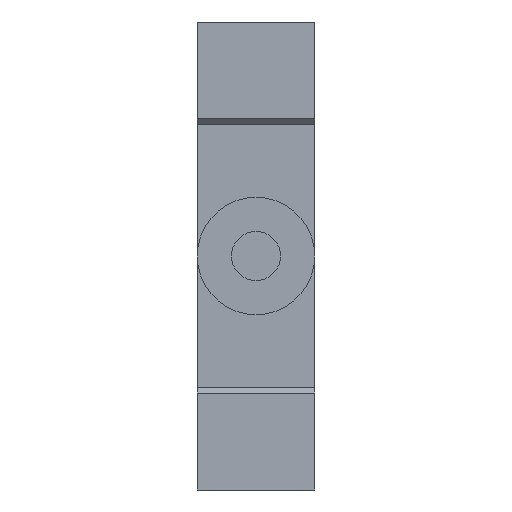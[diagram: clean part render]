
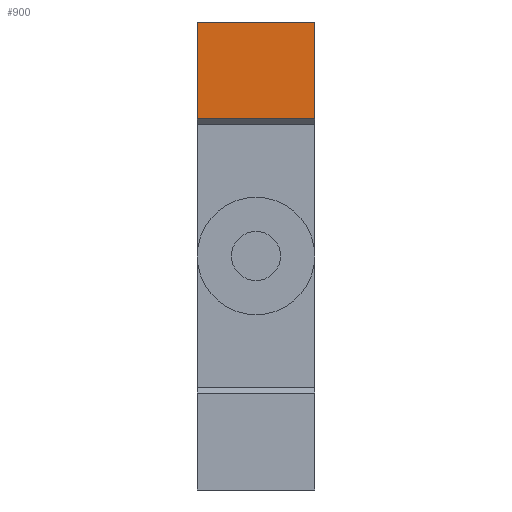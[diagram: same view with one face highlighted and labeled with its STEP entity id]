
A CAD part, front view. The second image highlights one B-rep face of the part: STEP entity #900.
In plain terms, the highlighted planar face has unit normal (0, -1, 0).
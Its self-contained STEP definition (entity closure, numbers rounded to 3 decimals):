
#69 = VECTOR ( 'NONE', #1380, 1000. ) ;
#78 = LINE ( 'NONE', #1381, #69 ) ;
#356 = EDGE_LOOP ( 'NONE', ( #482, #485, #486, #487 ) ) ;
#482 = ORIENTED_EDGE ( 'NONE', *, *, #1653, .T. ) ;
#485 = ORIENTED_EDGE ( 'NONE', *, *, #1657, .T. ) ;
#486 = ORIENTED_EDGE ( 'NONE', *, *, #1701, .F. ) ;
#487 = ORIENTED_EDGE ( 'NONE', *, *, #1448, .T. ) ;
#560 = CARTESIAN_POINT ( 'NONE',  ( 3., -10.3, 8.95 ) ) ;
#591 = VERTEX_POINT ( 'NONE', #645 ) ;
#609 = VERTEX_POINT ( 'NONE', #635 ) ;
#620 = CARTESIAN_POINT ( 'NONE',  ( 3., -10.3, -14.95 ) ) ;
#635 = CARTESIAN_POINT ( 'NONE',  ( 3., -10.3, 8.95 ) ) ;
#645 = CARTESIAN_POINT ( 'NONE',  ( -3., -10.3, 4. ) ) ;
#663 = DIRECTION ( 'NONE',  ( 0., 0., 1. ) ) ;
#668 = PLANE ( 'NONE',  #1488 ) ;
#674 = CARTESIAN_POINT ( 'NONE',  ( 3., -10.3, 4. ) ) ;
#676 = DIRECTION ( 'NONE',  ( -1., 0., 0. ) ) ;
#776 = CARTESIAN_POINT ( 'NONE',  ( -3., -10.3, 8.95 ) ) ;
#795 = DIRECTION ( 'NONE',  ( 0., 1., 0. ) ) ;
#838 = VERTEX_POINT ( 'NONE', #674 ) ;
#865 = VERTEX_POINT ( 'NONE', #776 ) ;
#900 = ADVANCED_FACE ( 'NONE', ( #1140 ), #668, .F. ) ;
#1016 = VECTOR ( 'NONE', #1870, 1000. ) ;
#1042 = LINE ( 'NONE', #1855, #1016 ) ;
#1134 = LINE ( 'NONE', #560, #1138 ) ;
#1136 = VECTOR ( 'NONE', #1879, 1000. ) ;
#1138 = VECTOR ( 'NONE', #676, 1000. ) ;
#1140 = FACE_OUTER_BOUND ( 'NONE', #356, .T. ) ;
#1146 = LINE ( 'NONE', #1880, #1136 ) ;
#1380 = DIRECTION ( 'NONE',  ( 0., 0., -1. ) ) ;
#1381 = CARTESIAN_POINT ( 'NONE',  ( 3., -10.3, -14.95 ) ) ;
#1448 = EDGE_CURVE ( 'NONE', #609, #865, #1134, .T. ) ;
#1488 = AXIS2_PLACEMENT_3D ( 'NONE', #620, #795, #663 ) ;
#1653 = EDGE_CURVE ( 'NONE', #865, #591, #1146, .T. ) ;
#1657 = EDGE_CURVE ( 'NONE', #591, #838, #1042, .T. ) ;
#1701 = EDGE_CURVE ( 'NONE', #609, #838, #78, .T. ) ;
#1855 = CARTESIAN_POINT ( 'NONE',  ( -3., -10.3, 4. ) ) ;
#1870 = DIRECTION ( 'NONE',  ( 1., 0., 0. ) ) ;
#1879 = DIRECTION ( 'NONE',  ( 0., 0., -1. ) ) ;
#1880 = CARTESIAN_POINT ( 'NONE',  ( -3., -10.3, -14.95 ) ) ;
